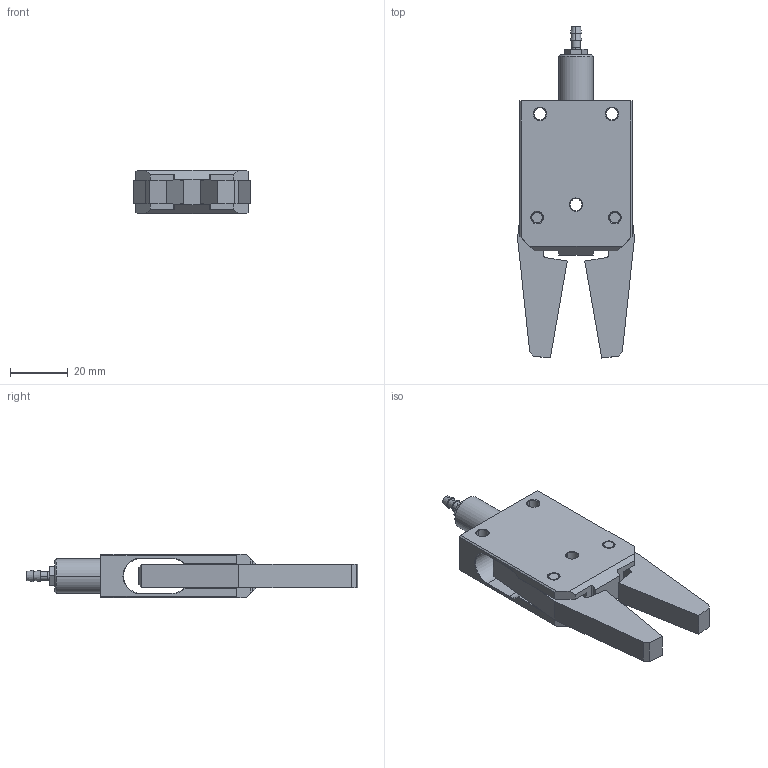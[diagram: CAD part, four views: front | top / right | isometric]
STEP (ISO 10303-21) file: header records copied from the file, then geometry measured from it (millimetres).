
FILE_DESCRIPTION (( 'STEP AP214' ), '1' );
FILE_NAME ('GRL12A.STEP', '2023-03-08T01:02:39', ( '微软用户' ), ( '微软中国' ), 'SwSTEP 2.0', 'SolidWorks 2018', '' );
FILE_SCHEMA (( 'AUTOMOTIVE_DESIGN' ));
Length unit declared in the file: millimetre
Products named in the file (2): GRL12A
Bounding box: 40.57 x 115.22 x 15 mm (x, y, z)
Volume: 29832.2 mm3; surface area: 16717.1 mm2
Topology: 6 solids, 6 shells, 192 faces, 490 edges, 314 vertices
Faces by surface type: plane 90, cylinder 50, cone 50, bspline 2
Entity records: 5965 total; most frequent: CARTESIAN_POINT 1067, DIRECTION 1033, ORIENTED_EDGE 980, EDGE_CURVE 490, AXIS2_PLACEMENT_3D 366, VERTEX_POINT 314, VECTOR 301, LINE 301
